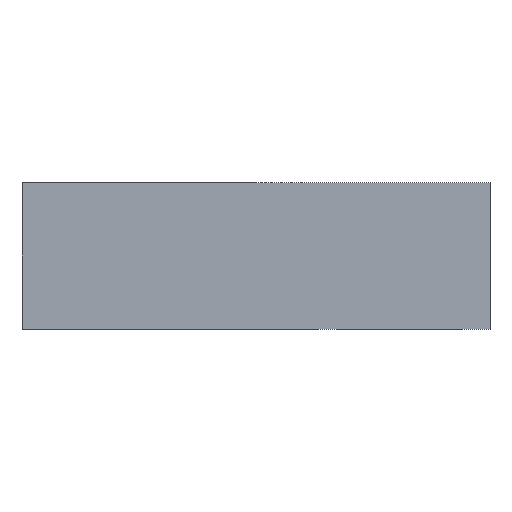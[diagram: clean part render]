
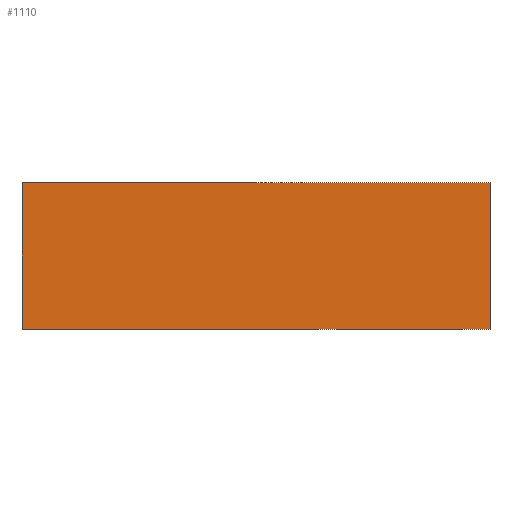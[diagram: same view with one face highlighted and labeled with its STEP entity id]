
A CAD part, front view. The second image highlights one B-rep face of the part: STEP entity #1110.
In plain terms, the highlighted planar face has unit normal (0, -1, 0).
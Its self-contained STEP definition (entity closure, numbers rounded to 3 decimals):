
#97 = AXIS2_PLACEMENT_3D ( 'NONE', #953, #958, #959 ) ;
#246 = VECTOR ( 'NONE', #1079, 1000. ) ;
#259 = VECTOR ( 'NONE', #1067, 1000. ) ;
#268 = LINE ( 'NONE', #1066, #246 ) ;
#270 = LINE ( 'NONE', #1062, #259 ) ;
#272 = VECTOR ( 'NONE', #1053, 1000. ) ;
#273 = LINE ( 'NONE', #1052, #272 ) ;
#295 = VECTOR ( 'NONE', #1031, 1000. ) ;
#296 = LINE ( 'NONE', #1030, #295 ) ;
#359 = CARTESIAN_POINT ( 'NONE',  ( 104., 0., 0. ) ) ;
#364 = FACE_OUTER_BOUND ( 'NONE', #558, .T. ) ;
#551 = ORIENTED_EDGE ( 'NONE', *, *, #1170, .T. ) ;
#558 = EDGE_LOOP ( 'NONE', ( #621, #620, #619, #551 ) ) ;
#619 = ORIENTED_EDGE ( 'NONE', *, *, #1177, .F. ) ;
#620 = ORIENTED_EDGE ( 'NONE', *, *, #1152, .F. ) ;
#621 = ORIENTED_EDGE ( 'NONE', *, *, #1163, .T. ) ;
#694 = VERTEX_POINT ( 'NONE', #1116 ) ;
#696 = VERTEX_POINT ( 'NONE', #359 ) ;
#697 = VERTEX_POINT ( 'NONE', #782 ) ;
#700 = VERTEX_POINT ( 'NONE', #785 ) ;
#782 = CARTESIAN_POINT ( 'NONE',  ( -104., 0., 65. ) ) ;
#785 = CARTESIAN_POINT ( 'NONE',  ( 104., 0., 65. ) ) ;
#950 = PLANE ( 'NONE',  #97 ) ;
#953 = CARTESIAN_POINT ( 'NONE',  ( -104., 0., 65. ) ) ;
#958 = DIRECTION ( 'NONE',  ( 0., 1., 0. ) ) ;
#959 = DIRECTION ( 'NONE',  ( -1., 0., 0. ) ) ;
#1030 = CARTESIAN_POINT ( 'NONE',  ( 104., 0., 65. ) ) ;
#1031 = DIRECTION ( 'NONE',  ( 0., 0., -1. ) ) ;
#1052 = CARTESIAN_POINT ( 'NONE',  ( -104., 0., 0. ) ) ;
#1053 = DIRECTION ( 'NONE',  ( 1., 0., 0. ) ) ;
#1062 = CARTESIAN_POINT ( 'NONE',  ( -104., 0., 65. ) ) ;
#1066 = CARTESIAN_POINT ( 'NONE',  ( -104., 0., 65. ) ) ;
#1067 = DIRECTION ( 'NONE',  ( 0., 0., -1. ) ) ;
#1079 = DIRECTION ( 'NONE',  ( 1., 0., 0. ) ) ;
#1110 = ADVANCED_FACE ( 'NONE', ( #364 ), #950, .F. ) ;
#1116 = CARTESIAN_POINT ( 'NONE',  ( -104., 0., 0. ) ) ;
#1152 = EDGE_CURVE ( 'NONE', #700, #696, #296, .T. ) ;
#1163 = EDGE_CURVE ( 'NONE', #694, #696, #273, .T. ) ;
#1170 = EDGE_CURVE ( 'NONE', #697, #694, #270, .T. ) ;
#1177 = EDGE_CURVE ( 'NONE', #697, #700, #268, .T. ) ;
